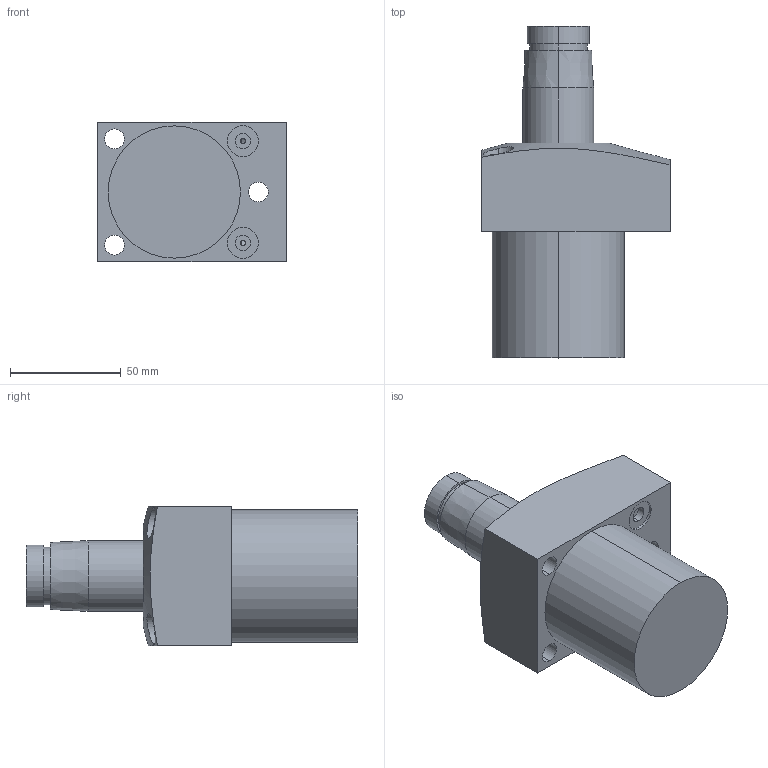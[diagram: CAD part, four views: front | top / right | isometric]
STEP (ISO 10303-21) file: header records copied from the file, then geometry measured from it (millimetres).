
FILE_DESCRIPTION (( 'STEP AP214' ), '1' );
FILE_NAME ('HPS-FA40.STEP', '2021-10-18T02:45:48', ( '' ), ( '' ), 'SwSTEP 2.0', 'SolidWorks 2016', '' );
FILE_SCHEMA (( 'AUTOMOTIVE_DESIGN' ));
Length unit declared in the file: millimetre
Products named in the file (1): HPS-FA40
Bounding box: 85 x 150 x 63 mm (x, y, z)
Volume: 385495 mm3; surface area: 42207.5 mm2
Topology: 1 solids, 1 shells, 61 faces, 144 edges, 92 vertices
Faces by surface type: cylinder 36, plane 17, cone 8
Entity records: 2304 total; most frequent: CARTESIAN_POINT 724, DIRECTION 312, ORIENTED_EDGE 280, EDGE_CURVE 140, AXIS2_PLACEMENT_3D 130, VERTEX_POINT 92, EDGE_LOOP 82, CIRCLE 68
